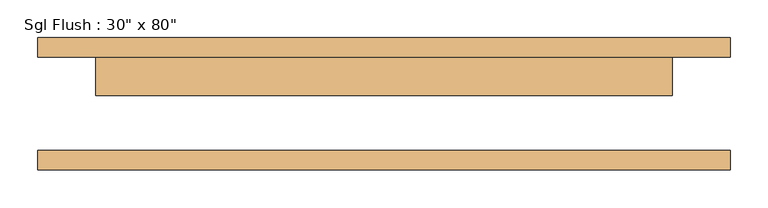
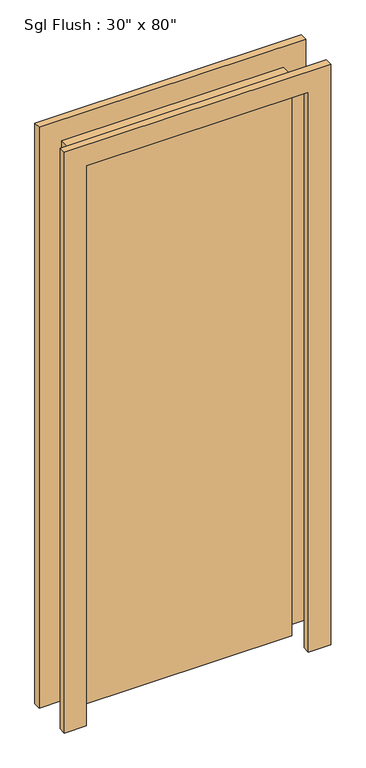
"""IFC4 building model written with IfcOpenShell, lengths in millimetres: door geometry."""

from ifc_helpers import new_model, si_unit, frame, origin, origin_with_axes, place, context, project, spatial, polyline, outline, extrude, source, transform, mapped, element, save


def door_39079f6b(model_context):
    return source(origin(), model_context, "Body", "SweptSolid", [
        extrude(outline(polyline([(2108.2, -457.2), (0.0, -457.2), (0.0, -381.0), (2032.0, -381.0), (2032.0, 381.0), (0.0, 381.0), (0.0, 457.2), (2108.2, 457.2), (2108.2, -457.2)])), frame((0.0, 61.9125, 0.0), z_axis=(0.0, 1.0, 0.0), x_axis=(0.0, 0.0, 1.0)), (0.0, 0.0, 1.0), 25.4),
        extrude(outline(polyline([(2108.2, 457.2), (2108.2, -457.2), (0.0, -457.2), (0.0, -381.0), (2032.0, -381.0), (2032.0, 381.0), (0.0, 381.0), (0.0, 457.2), (2108.2, 457.2)])), frame((0.0, -87.3125, 0.0), z_axis=(0.0, 1.0, 0.0), x_axis=(0.0, 0.0, 1.0)), (0.0, 0.0, 1.0), 25.4),
        extrude(outline(polyline([(381.0, 11.1125), (-381.0, 11.1125), (-381.0, 61.9125), (381.0, 61.9125), (381.0, 11.1125)])), origin_with_axes(), (0.0, 0.0, 1.0), 2032.0),
    ])


if __name__ == "__main__":
    model = new_model("IFC4")
    model_context = context("Model", 3, world=origin())
    ifc_project = project(units=[si_unit("LENGTHUNIT", "METRE", prefix="MILLI")], contexts=[model_context])
    site = spatial("IfcSite", under=ifc_project)
    building = spatial("IfcBuilding", under=site)
    placement = place(None, origin())
    door_shape = door_39079f6b(model_context)
    element("IfcDoor", 1, ObjectType="Sgl Flush : 30\" x 80\"", at=placement, inside=building, context=model_context, shape_type="MappedRepresentation", body=[
        mapped(door_shape, transform((0.0, 0.0, 0.0), x_axis=(1.0, 0.0, 0.0), y_axis=(0.0, 1.0, 0.0), z_axis=(0.0, 0.0, 1.0))),
    ])
    save(model, "model.ifc")
